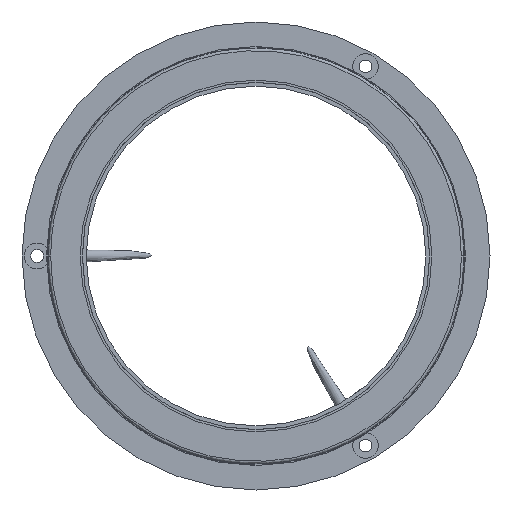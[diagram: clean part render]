
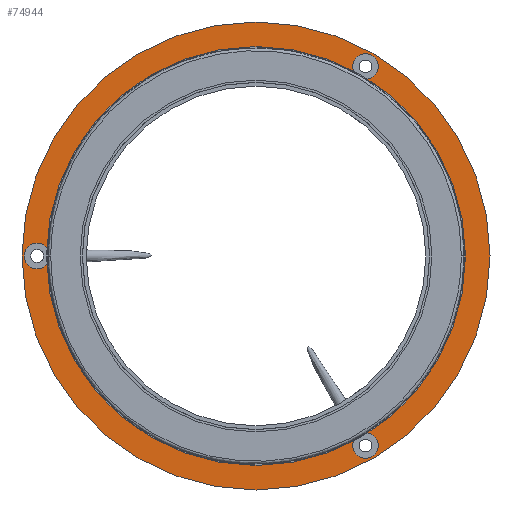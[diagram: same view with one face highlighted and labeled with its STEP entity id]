
A CAD part, left-side view. The second image highlights one B-rep face of the part: STEP entity #74944.
In plain terms, the highlighted planar face has unit normal (-1, 0, 0).
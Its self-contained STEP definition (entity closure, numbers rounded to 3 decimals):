
#142 = DIRECTION ( 'NONE',  ( 0., -1., 0. ) ) ;
#970 = EDGE_LOOP ( 'NONE', ( #54660, #10460 ) ) ;
#2674 = EDGE_CURVE ( 'NONE', #63699, #36060, #33547, .T. ) ;
#4396 = CARTESIAN_POINT ( 'NONE',  ( 2.8, -31., 0. ) ) ;
#4482 = FACE_OUTER_BOUND ( 'NONE', #18195, .T. ) ;
#4813 = ORIENTED_EDGE ( 'NONE', *, *, #19648, .T. ) ;
#6625 = DIRECTION ( 'NONE',  ( 0., -1., 0. ) ) ;
#7291 = CARTESIAN_POINT ( 'NONE',  ( 2.8, 0., 0. ) ) ;
#7486 = CARTESIAN_POINT ( 'NONE',  ( 2.8, 31., 0. ) ) ;
#7951 = CARTESIAN_POINT ( 'NONE',  ( 2.8, -12.8, 25.115 ) ) ;
#10239 = DIRECTION ( 'NONE',  ( 1., 0., 0. ) ) ;
#10460 = ORIENTED_EDGE ( 'NONE', *, *, #70181, .T. ) ;
#11074 = AXIS2_PLACEMENT_3D ( 'NONE', #35719, #35204, #6625 ) ;
#11264 = DIRECTION ( 'NONE',  ( 0., -1., 0. ) ) ;
#11753 = CARTESIAN_POINT ( 'NONE',  ( 2.8, -12.8, -25.115 ) ) ;
#11877 = AXIS2_PLACEMENT_3D ( 'NONE', #47418, #11893, #142 ) ;
#11893 = DIRECTION ( 'NONE',  ( 1., 0., 0. ) ) ;
#12528 = VERTEX_POINT ( 'NONE', #31944 ) ;
#12854 = FACE_BOUND ( 'NONE', #17626, .T. ) ;
#13266 = DIRECTION ( 'NONE',  ( 0., 1., 0. ) ) ;
#14183 = CIRCLE ( 'NONE', #72338, 1.7 ) ;
#14593 = AXIS2_PLACEMENT_3D ( 'NONE', #7291, #42880, #13266 ) ;
#14595 = CARTESIAN_POINT ( 'NONE',  ( 2.8, 0., 0. ) ) ;
#15575 = ORIENTED_EDGE ( 'NONE', *, *, #64061, .T. ) ;
#16170 = DIRECTION ( 'NONE',  ( 0., 1., 0. ) ) ;
#16496 = EDGE_CURVE ( 'NONE', #47365, #17352, #35724, .T. ) ;
#16530 = PLANE ( 'NONE',  #41754 ) ;
#16558 = DIRECTION ( 'NONE',  ( 1., 0., 0. ) ) ;
#17352 = VERTEX_POINT ( 'NONE', #30083 ) ;
#17527 = CIRCLE ( 'NONE', #11877, 1.7 ) ;
#17530 = VERTEX_POINT ( 'NONE', #65482 ) ;
#17626 = EDGE_LOOP ( 'NONE', ( #19900, #71296 ) ) ;
#18195 = EDGE_LOOP ( 'NONE', ( #53394, #4813 ) ) ;
#19648 = EDGE_CURVE ( 'NONE', #54157, #68643, #41356, .T. ) ;
#19900 = ORIENTED_EDGE ( 'NONE', *, *, #35780, .T. ) ;
#23011 = DIRECTION ( 'NONE',  ( 0., -1., 0. ) ) ;
#23572 = CIRCLE ( 'NONE', #40246, 1.7 ) ;
#24913 = FACE_BOUND ( 'NONE', #74543, .T. ) ;
#24927 = CIRCLE ( 'NONE', #69874, 31. ) ;
#25179 = ORIENTED_EDGE ( 'NONE', *, *, #65928, .T. ) ;
#26848 = CARTESIAN_POINT ( 'NONE',  ( 2.8, -14.5, -25.115 ) ) ;
#29714 = CIRCLE ( 'NONE', #50791, 1.7 ) ;
#30083 = CARTESIAN_POINT ( 'NONE',  ( 2.8, 25., 0. ) ) ;
#31944 = CARTESIAN_POINT ( 'NONE',  ( 2.8, -16.2, -25.115 ) ) ;
#32571 = DIRECTION ( 'NONE',  ( 0., -1., 0. ) ) ;
#33418 = CARTESIAN_POINT ( 'NONE',  ( 2.8, 30.7, 0. ) ) ;
#33547 = CIRCLE ( 'NONE', #11074, 1.7 ) ;
#33833 = CARTESIAN_POINT ( 'NONE',  ( 2.8, 0., 0. ) ) ;
#34129 = CARTESIAN_POINT ( 'NONE',  ( 2.8, -14.5, 25.115 ) ) ;
#35204 = DIRECTION ( 'NONE',  ( 1., 0., 0. ) ) ;
#35719 = CARTESIAN_POINT ( 'NONE',  ( 2.8, -14.5, 25.115 ) ) ;
#35724 = CIRCLE ( 'NONE', #63325, 25. ) ;
#35780 = EDGE_CURVE ( 'NONE', #12528, #43483, #17527, .T. ) ;
#36060 = VERTEX_POINT ( 'NONE', #7951 ) ;
#37476 = DIRECTION ( 'NONE',  ( 0., 1., 0. ) ) ;
#38568 = ORIENTED_EDGE ( 'NONE', *, *, #16496, .T. ) ;
#39438 = AXIS2_PLACEMENT_3D ( 'NONE', #34129, #75777, #46085 ) ;
#39800 = AXIS2_PLACEMENT_3D ( 'NONE', #33833, #10239, #16170 ) ;
#40246 = AXIS2_PLACEMENT_3D ( 'NONE', #46802, #59055, #11264 ) ;
#41356 = CIRCLE ( 'NONE', #14593, 31. ) ;
#41754 = AXIS2_PLACEMENT_3D ( 'NONE', #70116, #46650, #23011 ) ;
#42880 = DIRECTION ( 'NONE',  ( -1., 0., 0. ) ) ;
#43195 = DIRECTION ( 'NONE',  ( 0., 1., 0. ) ) ;
#43483 = VERTEX_POINT ( 'NONE', #11753 ) ;
#46085 = DIRECTION ( 'NONE',  ( 0., -1., 0. ) ) ;
#46650 = DIRECTION ( 'NONE',  ( -1., 0., 0. ) ) ;
#46802 = CARTESIAN_POINT ( 'NONE',  ( 2.8, 29., 0. ) ) ;
#47365 = VERTEX_POINT ( 'NONE', #47464 ) ;
#47418 = CARTESIAN_POINT ( 'NONE',  ( 2.8, -14.5, -25.115 ) ) ;
#47464 = CARTESIAN_POINT ( 'NONE',  ( 2.8, -25., 0. ) ) ;
#48884 = ORIENTED_EDGE ( 'NONE', *, *, #68857, .T. ) ;
#50036 = FACE_BOUND ( 'NONE', #970, .T. ) ;
#50791 = AXIS2_PLACEMENT_3D ( 'NONE', #52161, #16558, #51629 ) ;
#51629 = DIRECTION ( 'NONE',  ( 0., -1., 0. ) ) ;
#52161 = CARTESIAN_POINT ( 'NONE',  ( 2.8, 29., 0. ) ) ;
#53394 = ORIENTED_EDGE ( 'NONE', *, *, #71073, .T. ) ;
#54157 = VERTEX_POINT ( 'NONE', #4396 ) ;
#54660 = ORIENTED_EDGE ( 'NONE', *, *, #2674, .T. ) ;
#55526 = EDGE_CURVE ( 'NONE', #43483, #12528, #14183, .T. ) ;
#55959 = CARTESIAN_POINT ( 'NONE',  ( 2.8, 0., 0. ) ) ;
#59055 = DIRECTION ( 'NONE',  ( 1., 0., 0. ) ) ;
#59892 = CIRCLE ( 'NONE', #39800, 25. ) ;
#61243 = FACE_BOUND ( 'NONE', #66659, .T. ) ;
#61667 = DIRECTION ( 'NONE',  ( 1., 0., 0. ) ) ;
#63213 = CIRCLE ( 'NONE', #39438, 1.7 ) ;
#63325 = AXIS2_PLACEMENT_3D ( 'NONE', #55959, #61667, #43195 ) ;
#63699 = VERTEX_POINT ( 'NONE', #68212 ) ;
#64061 = EDGE_CURVE ( 'NONE', #64934, #17530, #23572, .T. ) ;
#64934 = VERTEX_POINT ( 'NONE', #33418 ) ;
#65482 = CARTESIAN_POINT ( 'NONE',  ( 2.8, 27.3, 0. ) ) ;
#65928 = EDGE_CURVE ( 'NONE', #17352, #47365, #59892, .T. ) ;
#66659 = EDGE_LOOP ( 'NONE', ( #25179, #38568 ) ) ;
#67726 = DIRECTION ( 'NONE',  ( 1., 0., 0. ) ) ;
#68156 = DIRECTION ( 'NONE',  ( -1., 0., 0. ) ) ;
#68212 = CARTESIAN_POINT ( 'NONE',  ( 2.8, -16.2, 25.115 ) ) ;
#68643 = VERTEX_POINT ( 'NONE', #7486 ) ;
#68857 = EDGE_CURVE ( 'NONE', #17530, #64934, #29714, .T. ) ;
#69874 = AXIS2_PLACEMENT_3D ( 'NONE', #14595, #68156, #37476 ) ;
#70116 = CARTESIAN_POINT ( 'NONE',  ( 2.8, 25., 0. ) ) ;
#70181 = EDGE_CURVE ( 'NONE', #36060, #63699, #63213, .T. ) ;
#71073 = EDGE_CURVE ( 'NONE', #68643, #54157, #24927, .T. ) ;
#71296 = ORIENTED_EDGE ( 'NONE', *, *, #55526, .T. ) ;
#72338 = AXIS2_PLACEMENT_3D ( 'NONE', #26848, #67726, #32571 ) ;
#74543 = EDGE_LOOP ( 'NONE', ( #48884, #15575 ) ) ;
#74944 = ADVANCED_FACE ( 'NONE', ( #4482, #61243, #50036, #12854, #24913 ), #16530, .T. ) ;
#75777 = DIRECTION ( 'NONE',  ( 1., 0., 0. ) ) ;
